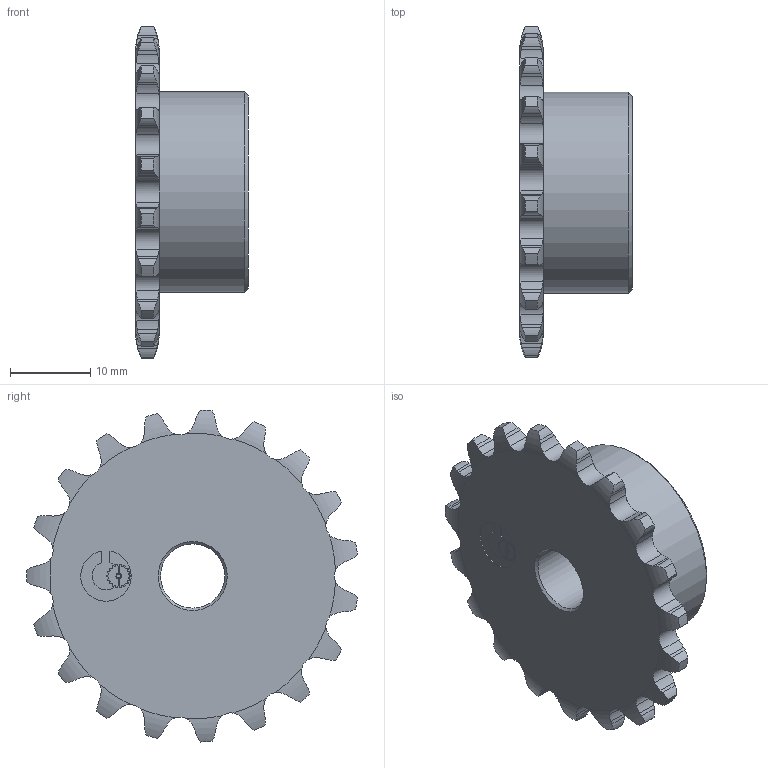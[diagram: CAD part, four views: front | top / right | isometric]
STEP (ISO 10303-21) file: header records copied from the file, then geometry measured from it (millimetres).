
FILE_DESCRIPTION(/* description */ (''),/* implementation_level */ '2;1');
FILE_NAME(/* name */ 'C:\Users\luca.leone\Desktop\ASA25 6.35x3.175\ASA25 0.25X0.125 - 3D\10107019.stp',/* time_stamp */ '2022-07-11T12:14:04+02:00',/* author */ ('luca.leone'),/* organization */ (''),/* preprocessor_version */ 'ST-DEVELOPER v18.1',/* originating_system */ 'Autodesk Inventor 2022',/* authorisation */ '');
FILE_SCHEMA (('AUTOMOTIVE_DESIGN { 1 0 10303 214 3 1 1 }'));
Length unit declared in the file: millimetre
Products named in the file (1): 10107019
Bounding box: 14 x 41.22 x 41.35 mm (x, y, z)
Volume: 7990.2 mm3; surface area: 3833.5 mm2
Topology: 1 solids, 1 shells, 290 faces, 847 edges, 563 vertices
Faces by surface type: cylinder 158, plane 91, torus 38, cone 3
Full cylindrical faces by diameter (mm): 0.519 x1, 8 x1, 25 x1
Entity records: 10275 total; most frequent: CARTESIAN_POINT 2941, ORIENTED_EDGE 1694, DIRECTION 1330, EDGE_CURVE 847, VERTEX_POINT 563, AXIS2_PLACEMENT_3D 496, LINE 338, VECTOR 338
